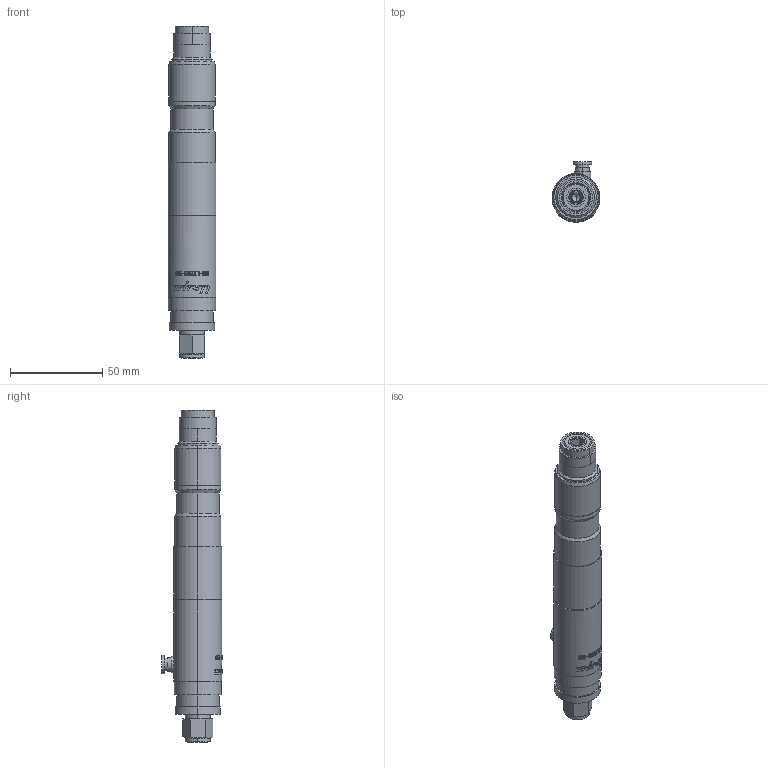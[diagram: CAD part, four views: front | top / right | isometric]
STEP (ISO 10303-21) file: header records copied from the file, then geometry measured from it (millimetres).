
FILE_DESCRIPTION (( 'STEP AP203' ), '1' );
FILE_NAME ('US-LT20B-26.STEP', '2008-07-30T05:03:49', ( '上村　洋司' ), ( '瓜生製作株式会社' ), 'SwSTEP 2.0', 'SolidWorks 2003240', '' );
FILE_SCHEMA (( 'CONFIG_CONTROL_DESIGN' ));
Length unit declared in the file: millimetre
Products named in the file (6): 8930551_US-LT20B-10_蹬怮椔; US-LT20B-26; 4700258_US-LT20B-18_蹬怮椔; 4703194_US-LT20B-10_蹬怮椔; 9810020_US-LT20B-10_蹬怮椔; 4705677_US-LT20B-10_蹬怮椔
Assembly tree (5 placements, depth 2):
  US-LT20B-26
    4705677_US-LT20B-10_蹬怮椔
    8930551_US-LT20B-10_蹬怮椔
    9810020_US-LT20B-10_蹬怮椔
    4700258_US-LT20B-18_蹬怮椔
    4703194_US-LT20B-10_蹬怮椔
Bounding box: 26 x 32.7 x 180 mm (x, y, z)
Volume: 78934.6 mm3; surface area: 20336.3 mm2
Topology: 5 solids, 5 shells, 403 faces, 1020 edges, 666 vertices
Faces by surface type: plane 135, cylinder 131, bspline 109, cone 26, sphere 2
Entity records: 18619 total; most frequent: CARTESIAN_POINT 9186, ORIENTED_EDGE 2026, DIRECTION 1485, EDGE_CURVE 1013, VERTEX_POINT 663, AXIS2_PLACEMENT_3D 538, EDGE_LOOP 450, VECTOR 409
